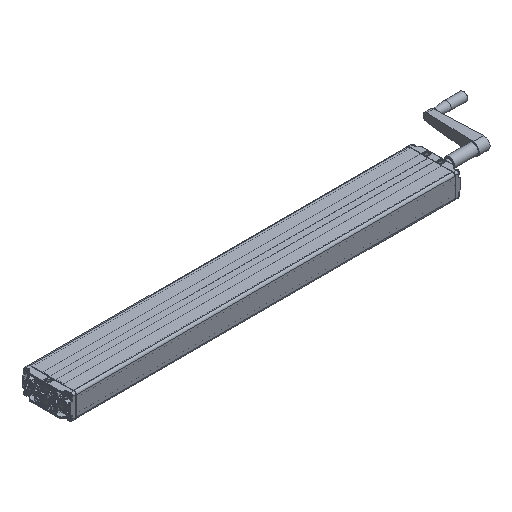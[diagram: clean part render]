
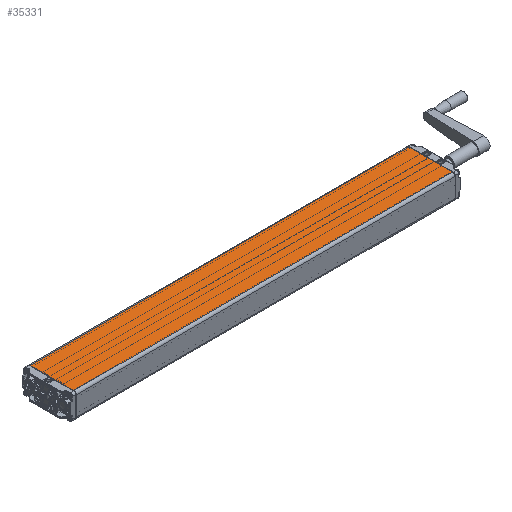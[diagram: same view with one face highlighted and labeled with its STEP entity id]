
A CAD part, isometric view. The second image highlights one B-rep face of the part: STEP entity #35331.
In plain terms, the highlighted planar face has unit normal (0, 0, 1).
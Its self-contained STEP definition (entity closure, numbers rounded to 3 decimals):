
#3673=LINE('',#75945,#5032);
#3674=LINE('',#75948,#5033);
#3675=LINE('',#75950,#5034);
#3676=LINE('',#75952,#5035);
#5032=VECTOR('',#43155,1000.);
#5033=VECTOR('',#43156,1000.);
#5034=VECTOR('',#43157,1000.);
#5035=VECTOR('',#43158,1000.);
#10657=ORIENTED_EDGE('',*,*,#16874,.T.);
#10658=ORIENTED_EDGE('',*,*,#16875,.T.);
#10659=ORIENTED_EDGE('',*,*,#16876,.T.);
#10660=ORIENTED_EDGE('',*,*,#16877,.T.);
#16874=EDGE_CURVE('',#20244,#20245,#3673,.F.);
#16875=EDGE_CURVE('',#20245,#20246,#3674,.T.);
#16876=EDGE_CURVE('',#20246,#20247,#3675,.T.);
#16877=EDGE_CURVE('',#20247,#20244,#3676,.F.);
#20244=VERTEX_POINT('',#75946);
#20245=VERTEX_POINT('',#75947);
#20246=VERTEX_POINT('',#75949);
#20247=VERTEX_POINT('',#75951);
#23933=EDGE_LOOP('',(#10657,#10658,#10659,#10660));
#26053=FACE_BOUND('',#23933,.T.);
#27242=PLANE('',#37788);
#35331=ADVANCED_FACE('',(#26053),#27242,.T.);
#37788=AXIS2_PLACEMENT_3D('',#75944,#43153,#43154);
#43153=DIRECTION('',(0.,0.,1.));
#43154=DIRECTION('',(1.,0.,0.));
#43155=DIRECTION('',(0.,-1.,0.));
#43156=DIRECTION('',(-1.,0.,0.));
#43157=DIRECTION('',(0.,-1.,0.));
#43158=DIRECTION('',(-1.,0.,0.));
#75944=CARTESIAN_POINT('',(60.,939.5,30.));
#75945=CARTESIAN_POINT('',(54.,939.5,30.));
#75946=CARTESIAN_POINT('',(54.,0.5,30.));
#75947=CARTESIAN_POINT('',(54.,939.,30.));
#75948=CARTESIAN_POINT('',(60.,939.,30.));
#75949=CARTESIAN_POINT('',(-54.,939.,30.));
#75950=CARTESIAN_POINT('',(-54.,939.5,30.));
#75951=CARTESIAN_POINT('',(-54.,0.5,30.));
#75952=CARTESIAN_POINT('',(54.,0.5,30.));
